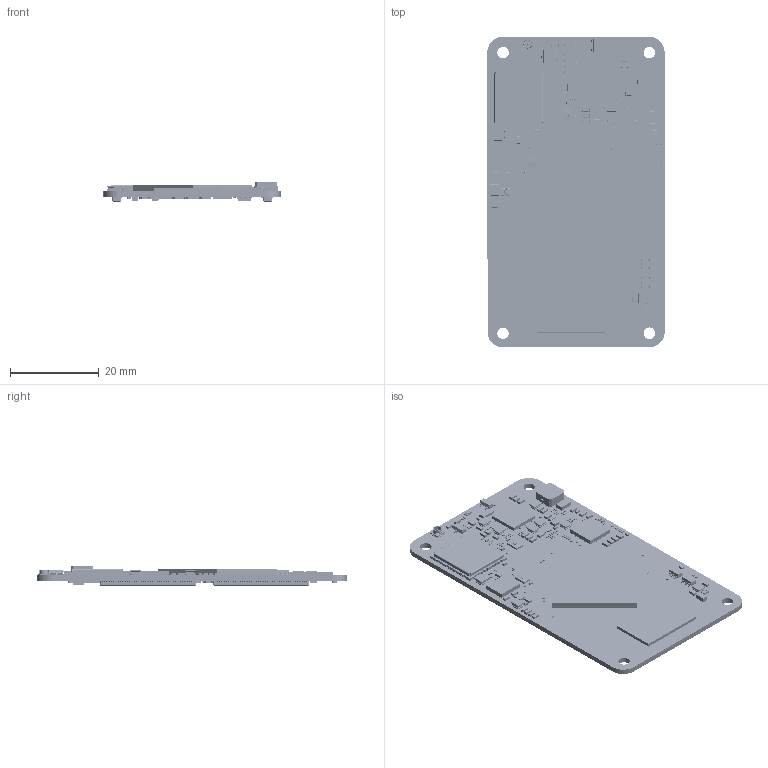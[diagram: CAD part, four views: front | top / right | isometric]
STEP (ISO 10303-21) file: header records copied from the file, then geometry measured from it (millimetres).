
FILE_DESCRIPTION((''),'2;1');
FILE_NAME('RADXA_CM3I_PCBA','2024-04-07T19:58:51',('admin'),(''),'CREO PARAMETRIC BY PTC INC, 2023072','CREO PARAMETRIC BY PTC INC, 2023072','');
FILE_SCHEMA(('CONFIG_CONTROL_DESIGN','SHAPE_APPEARANCE_LAYERS_GROUPS'));
Products named in the file (1): RADXA_CM3I_PCBA
Bounding box: 40.01 x 70.05 x 4.34 mm (x, y, z)
Volume: 4586.3 mm3; surface area: 7951.9 mm2
Topology: 3 solids, 7 shells, 15440 faces, 40392 edges, 24063 vertices
Faces by surface type: plane 8810, cylinder 5668, sphere 748, torus 91, cone 87, bspline 24, extrusion 12
Entity records: 584722 total; most frequent: CARTESIAN_POINT 88928, ORIENTED_EDGE 79410, DIRECTION 76725, EDGE_CURVE 39705, VECTOR 28465, LINE 28453, AXIS2_PLACEMENT_3D 24130, VERTEX_POINT 24062
